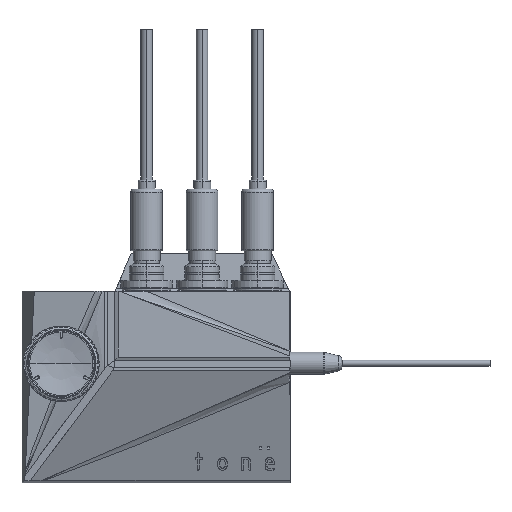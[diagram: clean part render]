
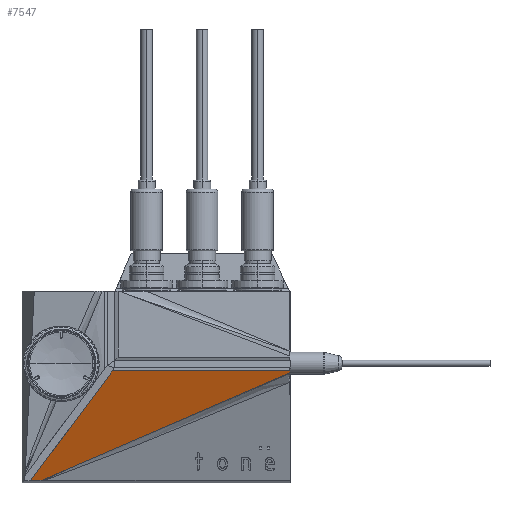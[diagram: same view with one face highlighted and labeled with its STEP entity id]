
A CAD part, top view. The second image highlights one B-rep face of the part: STEP entity #7547.
In plain terms, the highlighted planar face has unit normal (0, -0.358, 0.934).
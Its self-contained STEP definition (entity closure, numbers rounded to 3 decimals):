
#54=DIRECTION('',(1.,0.,0.));
#55=VECTOR('',#54,3.51);
#56=CARTESIAN_POINT('',(-41.71,-30.238,2.5));
#57=LINE('',#56,#55);
#1361=DIRECTION('',(-1.,0.,0.));
#1362=VECTOR('',#1361,58.8);
#1363=CARTESIAN_POINT('',(44.3,6.04,16.4));
#1364=LINE('',#1363,#1362);
#1397=DIRECTION('',(0.004,-0.934,-0.358));
#1398=VECTOR('',#1397,0.671);
#1399=CARTESIAN_POINT('',(44.3,6.04,16.4));
#1400=LINE('',#1399,#1398);
#1401=DIRECTION('',(-0.907,-0.393,-0.151));
#1402=VECTOR('',#1401,8.423);
#1403=CARTESIAN_POINT('',(-30.561,-26.925,
3.769));
#1404=LINE('',#1403,#1402);
#1405=DIRECTION('',(0.574,0.765,0.293));
#1406=VECTOR('',#1405,47.431);
#1407=CARTESIAN_POINT('',(-41.71,-30.238,2.5));
#1408=LINE('',#1407,#1406);
#1409=CARTESIAN_POINT('',(-30.561,-26.925,
3.769));
#1410=CARTESIAN_POINT('',(-28.32,-25.953,
4.142));
#1411=CARTESIAN_POINT('',(-23.765,-24.007,
4.887));
#1412=CARTESIAN_POINT('',(-16.715,-20.993,
6.042));
#1413=CARTESIAN_POINT('',(-9.576,-17.931,
7.215));
#1414=CARTESIAN_POINT('',(-2.691,-14.966,
8.351));
#1415=CARTESIAN_POINT('',(3.777,-12.174,9.421));
#1416=CARTESIAN_POINT('',(10.748,-9.157,10.577));
#1417=CARTESIAN_POINT('',(18.272,-5.896,11.827));
#1418=CARTESIAN_POINT('',(26.297,-2.413,13.161));
#1419=CARTESIAN_POINT('',(34.904,1.327,14.594));
#1420=CARTESIAN_POINT('',(41.098,4.02,15.626));
#1421=CARTESIAN_POINT('',(44.303,5.413,16.16));
#1431=CARTESIAN_POINT('',(-30.561,-26.925,
3.769));
#4481=CARTESIAN_POINT('',(-14.5,6.04,16.4));
#4482=VERTEX_POINT('',#4481);
#4483=CARTESIAN_POINT('',(-41.71,-30.238,2.5));
#4484=VERTEX_POINT('',#4483);
#4485=CARTESIAN_POINT('',(44.3,6.04,16.4));
#4486=VERTEX_POINT('',#4485);
#4499=VERTEX_POINT('',#1431);
#4502=VERTEX_POINT('',#1421);
#4505=CARTESIAN_POINT('',(-38.2,-30.238,2.5));
#4506=VERTEX_POINT('',#4505);
#7532=CARTESIAN_POINT('',(-57.5,6.04,16.4));
#7533=DIRECTION('',(0.,0.358,-0.934));
#7534=DIRECTION('',(0.,-0.934,-0.358));
#7535=AXIS2_PLACEMENT_3D('',#7532,#7533,#7534);
#7536=PLANE('',#7535);
#7537=ORIENTED_EDGE('',*,*,#7129,.T.);
#7539=ORIENTED_EDGE('',*,*,#7538,.F.);
#7541=ORIENTED_EDGE('',*,*,#7540,.T.);
#7542=ORIENTED_EDGE('',*,*,#5566,.F.);
#7543=ORIENTED_EDGE('',*,*,#7524,.T.);
#7544=ORIENTED_EDGE('',*,*,#7456,.F.);
#7545=EDGE_LOOP('',(#7537,#7539,#7541,#7542,#7543,#7544));
#7546=FACE_OUTER_BOUND('',#7545,.F.);
#7547=ADVANCED_FACE('',(#7546),#7536,.F.);
#1422=B_SPLINE_CURVE_WITH_KNOTS('',3,(#1409,#1410,#1411,#1412,#1413,#1414,#1415,
#1416,#1417,#1418,#1419,#1420,#1421),.UNSPECIFIED.,.F.,.F.,(4,1,1,1,1,1,1,1,1,1,
4),(0.,0.1,0.2,0.3,0.4,0.5,0.6,0.7,0.8,0.9,1.),
.UNSPECIFIED.);
#5566=EDGE_CURVE('',#4484,#4506,#57,.T.);
#7129=EDGE_CURVE('',#4486,#4502,#1400,.T.);
#7456=EDGE_CURVE('',#4486,#4482,#1364,.T.);
#7524=EDGE_CURVE('',#4484,#4482,#1408,.T.);
#7538=EDGE_CURVE('',#4499,#4502,#1422,.T.);
#7540=EDGE_CURVE('',#4499,#4506,#1404,.T.);
